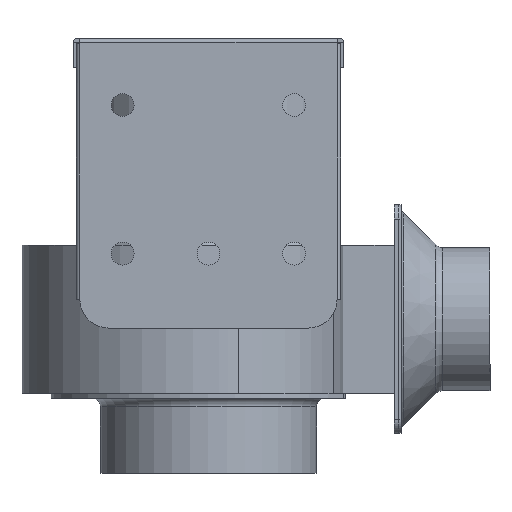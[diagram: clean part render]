
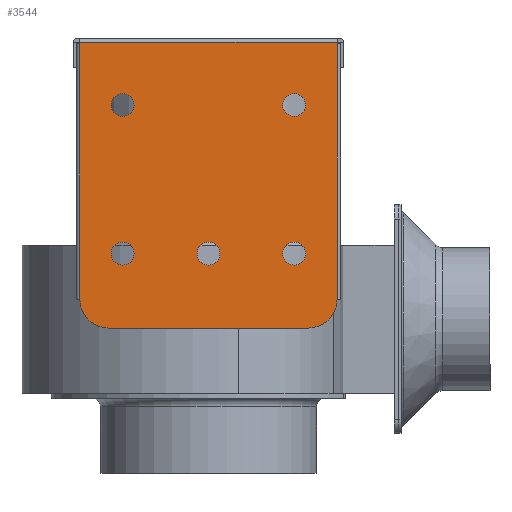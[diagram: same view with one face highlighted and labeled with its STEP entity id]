
A CAD part, front view. The second image highlights one B-rep face of the part: STEP entity #3544.
In plain terms, the highlighted planar face has unit normal (0, -1, 0).
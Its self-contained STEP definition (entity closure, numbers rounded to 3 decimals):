
#409=CIRCLE('',#4034,4.);
#410=CIRCLE('',#4035,4.);
#411=CIRCLE('',#4036,4.);
#412=CIRCLE('',#4037,4.);
#413=CIRCLE('',#4038,4.);
#414=CIRCLE('',#4039,10.);
#415=CIRCLE('',#4040,10.);
#1064=ORIENTED_EDGE('',*,*,#1774,.T.);
#1065=ORIENTED_EDGE('',*,*,#1775,.T.);
#1066=ORIENTED_EDGE('',*,*,#1776,.T.);
#1067=ORIENTED_EDGE('',*,*,#1777,.T.);
#1068=ORIENTED_EDGE('',*,*,#1778,.T.);
#1069=ORIENTED_EDGE('',*,*,#1772,.F.);
#1070=ORIENTED_EDGE('',*,*,#1779,.T.);
#1071=ORIENTED_EDGE('',*,*,#1780,.T.);
#1072=ORIENTED_EDGE('',*,*,#1781,.F.);
#1073=ORIENTED_EDGE('',*,*,#1782,.T.);
#1074=ORIENTED_EDGE('',*,*,#1783,.T.);
#1075=ORIENTED_EDGE('',*,*,#1784,.T.);
#1076=ORIENTED_EDGE('',*,*,#1785,.T.);
#1772=EDGE_CURVE('',#2189,#2190,#2373,.T.);
#1774=EDGE_CURVE('',#2191,#2191,#409,.T.);
#1775=EDGE_CURVE('',#2192,#2192,#410,.T.);
#1776=EDGE_CURVE('',#2193,#2193,#411,.T.);
#1777=EDGE_CURVE('',#2194,#2194,#412,.T.);
#1778=EDGE_CURVE('',#2195,#2195,#413,.T.);
#1779=EDGE_CURVE('',#2189,#2196,#414,.F.);
#1780=EDGE_CURVE('',#2196,#2197,#2375,.F.);
#1781=EDGE_CURVE('',#2198,#2197,#2376,.T.);
#1782=EDGE_CURVE('',#2198,#2199,#2377,.T.);
#1783=EDGE_CURVE('',#2199,#2200,#2378,.T.);
#1784=EDGE_CURVE('',#2200,#2201,#2379,.T.);
#1785=EDGE_CURVE('',#2201,#2190,#415,.F.);
#2189=VERTEX_POINT('',#6208);
#2190=VERTEX_POINT('',#6210);
#2191=VERTEX_POINT('',#6214);
#2192=VERTEX_POINT('',#6216);
#2193=VERTEX_POINT('',#6218);
#2194=VERTEX_POINT('',#6220);
#2195=VERTEX_POINT('',#6222);
#2196=VERTEX_POINT('',#6224);
#2197=VERTEX_POINT('',#6226);
#2198=VERTEX_POINT('',#6228);
#2199=VERTEX_POINT('',#6230);
#2200=VERTEX_POINT('',#6232);
#2201=VERTEX_POINT('',#6234);
#2373=LINE('',#6209,#2608);
#2375=LINE('',#6225,#2610);
#2376=LINE('',#6227,#2611);
#2377=LINE('',#6229,#2612);
#2378=LINE('',#6231,#2613);
#2379=LINE('',#6233,#2614);
#2608=VECTOR('',#4978,1000.);
#2610=VECTOR('',#4994,1000.);
#2611=VECTOR('',#4995,1000.);
#2612=VECTOR('',#4996,1000.);
#2613=VECTOR('',#4997,1000.);
#2614=VECTOR('',#4998,1000.);
#2938=EDGE_LOOP('',(#1064));
#2939=EDGE_LOOP('',(#1065));
#2940=EDGE_LOOP('',(#1066));
#2941=EDGE_LOOP('',(#1067));
#2942=EDGE_LOOP('',(#1068));
#2943=EDGE_LOOP('',(#1069,#1070,#1071,#1072,#1073,#1074,#1075,#1076));
#3257=FACE_BOUND('',#2938,.T.);
#3258=FACE_BOUND('',#2939,.T.);
#3259=FACE_BOUND('',#2940,.T.);
#3260=FACE_BOUND('',#2941,.T.);
#3261=FACE_BOUND('',#2942,.T.);
#3262=FACE_BOUND('',#2943,.T.);
#3391=PLANE('',#4033);
#3544=ADVANCED_FACE('',(#3257,#3258,#3259,#3260,#3261,#3262),#3391,.F.);
#4033=AXIS2_PLACEMENT_3D('',#6212,#4980,#4981);
#4034=AXIS2_PLACEMENT_3D('',#6213,#4982,#4983);
#4035=AXIS2_PLACEMENT_3D('',#6215,#4984,#4985);
#4036=AXIS2_PLACEMENT_3D('',#6217,#4986,#4987);
#4037=AXIS2_PLACEMENT_3D('',#6219,#4988,#4989);
#4038=AXIS2_PLACEMENT_3D('',#6221,#4990,#4991);
#4039=AXIS2_PLACEMENT_3D('',#6223,#4992,#4993);
#4040=AXIS2_PLACEMENT_3D('',#6235,#4999,#5000);
#4978=DIRECTION('',(0.,0.,1.));
#4980=DIRECTION('',(0.,1.,0.));
#4981=DIRECTION('',(-1.,0.,0.));
#4982=DIRECTION('',(0.,1.,0.));
#4983=DIRECTION('',(-1.,0.,0.));
#4984=DIRECTION('',(0.,1.,0.));
#4985=DIRECTION('',(-1.,0.,0.));
#4986=DIRECTION('',(0.,1.,0.));
#4987=DIRECTION('',(-1.,0.,0.));
#4988=DIRECTION('',(0.,1.,0.));
#4989=DIRECTION('',(-1.,0.,0.));
#4990=DIRECTION('',(0.,1.,0.));
#4991=DIRECTION('',(-1.,0.,0.));
#4992=DIRECTION('',(0.,1.,0.));
#4993=DIRECTION('',(-1.,0.,0.));
#4994=DIRECTION('',(-1.,0.,0.));
#4995=DIRECTION('',(-1.,0.,0.));
#4996=DIRECTION('',(0.,0.,1.));
#4997=DIRECTION('',(-1.,0.,0.));
#4998=DIRECTION('',(-1.,0.,0.));
#4999=DIRECTION('',(0.,1.,0.));
#5000=DIRECTION('',(-1.,0.,0.));
#6208=CARTESIAN_POINT('',(13.188,-134.824,-81.2));
#6209=CARTESIAN_POINT('',(13.188,-134.824,-92.4));
#6210=CARTESIAN_POINT('',(13.188,-134.824,-11.2));
#6212=CARTESIAN_POINT('',(113.188,-134.824,-92.4));
#6213=CARTESIAN_POINT('',(91.188,-134.824,-76.2));
#6214=CARTESIAN_POINT('',(87.188,-134.824,-76.2));
#6215=CARTESIAN_POINT('',(39.188,-134.824,-76.2));
#6216=CARTESIAN_POINT('',(35.188,-134.824,-76.2));
#6217=CARTESIAN_POINT('',(39.188,-134.824,-46.2));
#6218=CARTESIAN_POINT('',(35.188,-134.824,-46.2));
#6219=CARTESIAN_POINT('',(39.188,-134.824,-16.2));
#6220=CARTESIAN_POINT('',(35.188,-134.824,-16.2));
#6221=CARTESIAN_POINT('',(91.188,-134.824,-16.2));
#6222=CARTESIAN_POINT('',(87.188,-134.824,-16.2));
#6223=CARTESIAN_POINT('',(23.188,-134.824,-81.2));
#6224=CARTESIAN_POINT('',(23.188,-134.824,-91.2));
#6225=CARTESIAN_POINT('',(112.688,-134.824,-91.2));
#6226=CARTESIAN_POINT('',(112.688,-134.824,-91.2));
#6227=CARTESIAN_POINT('',(113.188,-134.824,-91.2));
#6228=CARTESIAN_POINT('',(113.188,-134.824,-91.2));
#6229=CARTESIAN_POINT('',(113.188,-134.824,-92.4));
#6230=CARTESIAN_POINT('',(113.188,-134.824,-1.2));
#6231=CARTESIAN_POINT('',(113.188,-134.824,-1.2));
#6232=CARTESIAN_POINT('',(112.726,-134.824,-1.2));
#6233=CARTESIAN_POINT('',(113.188,-134.824,-1.2));
#6234=CARTESIAN_POINT('',(23.188,-134.824,-1.2));
#6235=CARTESIAN_POINT('',(23.188,-134.824,-11.2));
